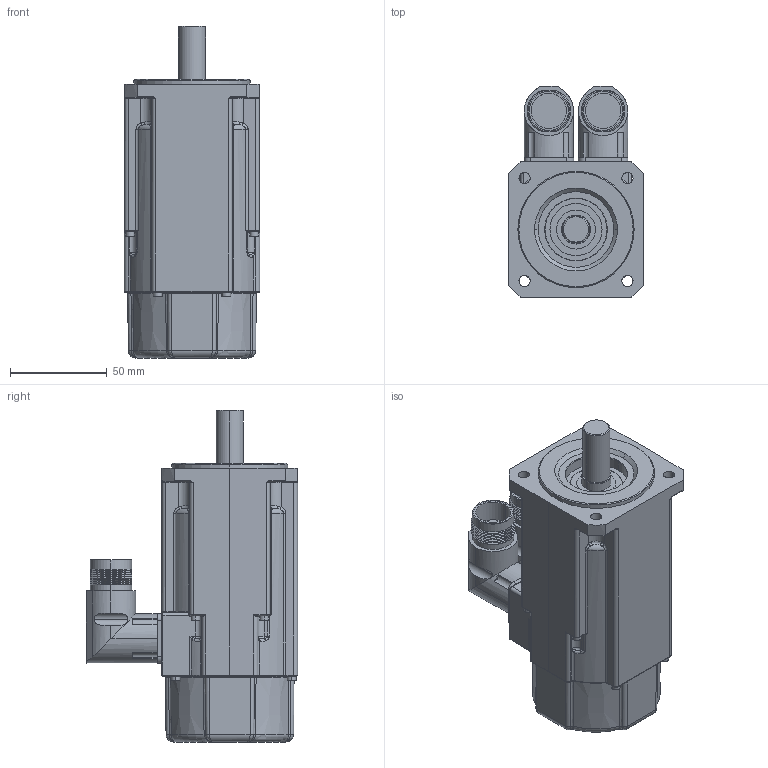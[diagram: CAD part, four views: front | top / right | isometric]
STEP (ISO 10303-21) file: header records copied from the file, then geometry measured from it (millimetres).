
FILE_DESCRIPTION (( 'STEP AP214' ), '1' );
FILE_NAME ('MR7731-Ux-Nxx-G01-A0D-MS-P0.stp', '2009-04-08T13:46:00', ( 'SysAdmin' ), ( 'SolidWorks' ), 'SwSTEP 2.0', 'SolidWorks 2009', '' );
FILE_SCHEMA (( 'AUTOMOTIVE_DESIGN' ));
Length unit declared in the file: millimetre
Products named in the file (1): MR7731-Ux-Nxx-G01-A0D-MS-P0
Bounding box: 70 x 109 x 171.3 mm (x, y, z)
Volume: 635337.8 mm3; surface area: 60071.8 mm2
Topology: 1 solids, 1 shells, 688 faces, 1632 edges, 932 vertices
Faces by surface type: cylinder 224, bspline 148, cone 126, plane 122, torus 66, sphere 2
Entity records: 27027 total; most frequent: CARTESIAN_POINT 9729, ORIENTED_EDGE 3184, DIRECTION 2892, EDGE_CURVE 1592, AXIS2_PLACEMENT_3D 1229, VERTEX_POINT 932, EDGE_LOOP 722, ADVANCED_FACE 688
